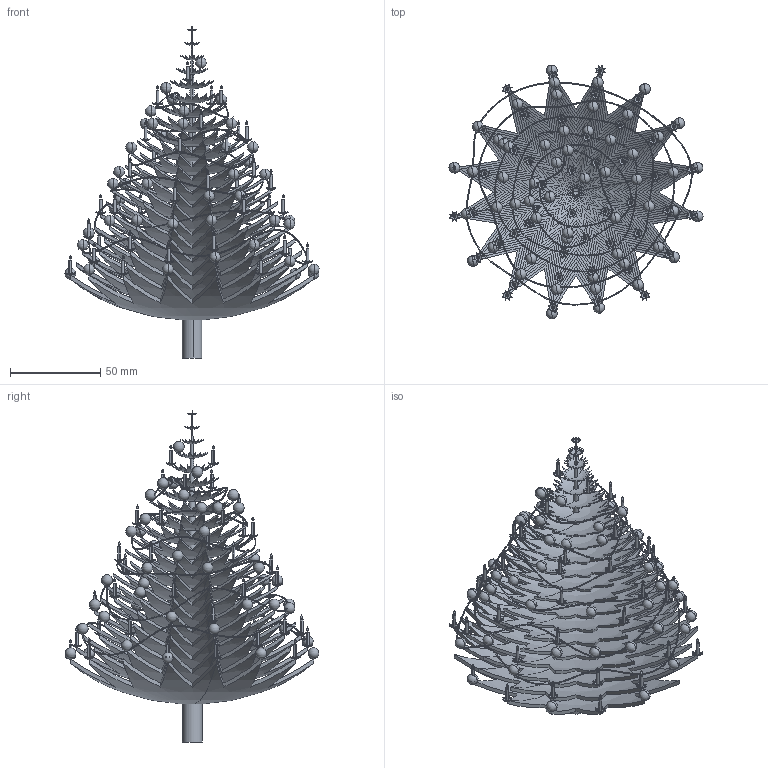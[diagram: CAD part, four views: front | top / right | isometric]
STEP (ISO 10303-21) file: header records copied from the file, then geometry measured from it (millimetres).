
FILE_DESCRIPTION(('CoCreate Modeling STEP Export'),'2;1');
FILE_NAME('Tannenbaum.stp','2010-12-20T19:37:35',(''),(''),'CoCreate Modeling STEP processor for AP214 (Solid Model)','CoCreate Modeling 17.0B 12-Nov-2010 (C) Parametric Technology GmbH','');
FILE_SCHEMA(('AUTOMOTIVE_DESIGN { 1 0 10303 214 1 1 1 1 }'));
Length unit declared in the file: millimetre
Products named in the file (17): Baum; S1; S2; S3; S4; S5; S6; LAMETTA; Kugel.6; Kugeln_BLAU; Kugel.4; Kugeln_GELB; Kugel.9; Kugeln_ROT; Kerze.34; Kerzen; KPL
Assembly tree (115 placements, depth 3):
  KPL
    Kerzen
      Kerze.34  x47
    Kugeln_ROT
      Kugel.9  x14
    Kugeln_GELB
      Kugel.4  x18
    Kugeln_BLAU
      Kugel.6  x24
    LAMETTA
      S6
      S5
      S4
      S3
      S2
      S1
    Baum
Bounding box: 140.46 x 140.28 x 183.58 mm (x, y, z)
Volume: 129074.1 mm3; surface area: 177296 mm2
Topology: 110 solids, 110 shells, 2347 faces, 6320 edges, 3861 vertices
Faces by surface type: plane 767, extrusion 470, cone 418, sphere 196, cylinder 190, torus 188, revolution 94, bspline 24
Entity records: 36067 total; most frequent: CARTESIAN_POINT 12121, DIRECTION 5413, ORIENTED_EDGE 4884, EDGE_CURVE 2442, AXIS2_PLACEMENT_3D 2343, VERTEX_POINT 1593, CIRCLE 1447, EDGE_LOOP 863
